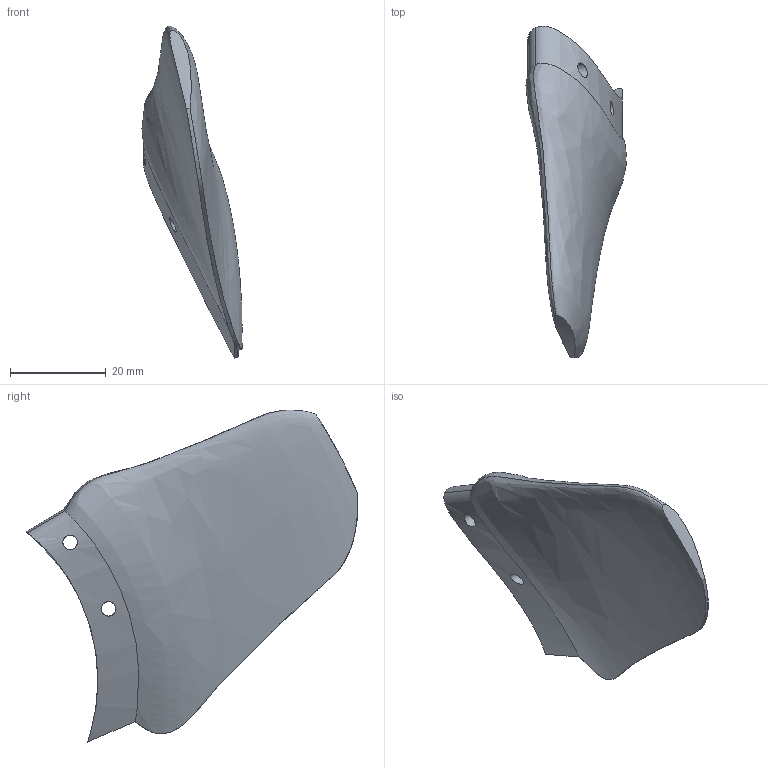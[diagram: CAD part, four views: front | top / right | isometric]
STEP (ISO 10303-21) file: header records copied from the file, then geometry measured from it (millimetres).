
FILE_DESCRIPTION(('Open CASCADE Model'),'2;1');
FILE_NAME('Open CASCADE Shape Model','2026-10-31T23:31:00',('Author'),( 'Open CASCADE'),'Open CASCADE STEP processor 7.9','Open CASCADE 7.9' ,'Unknown');
FILE_SCHEMA(('AUTOMOTIVE_DESIGN { 1 0 10303 214 1 1 1 1 }'));
Length unit declared in the file: millimetre
Products named in the file (1): Open CASCADE STEP translator 7.9 21
Bounding box: 20.88 x 69.16 x 69.26 mm (x, y, z)
Volume: 17380.8 mm3; surface area: 6756.8 mm2
Topology: 1 solids, 1 shells, 10 faces, 21 edges, 13 vertices
Faces by surface type: bspline 8, cylinder 2
Full cylindrical faces by diameter (mm): 3 x2
Entity records: 6895 total; most frequent: CARTESIAN_POINT 6526, ORIENTED_EDGE 42, PCURVE 42, DEFINITIONAL_REPRESENTATION 42, DIRECTION 36, B_SPLINE_CURVE_WITH_KNOTS 30, LINE 30, VECTOR 30
